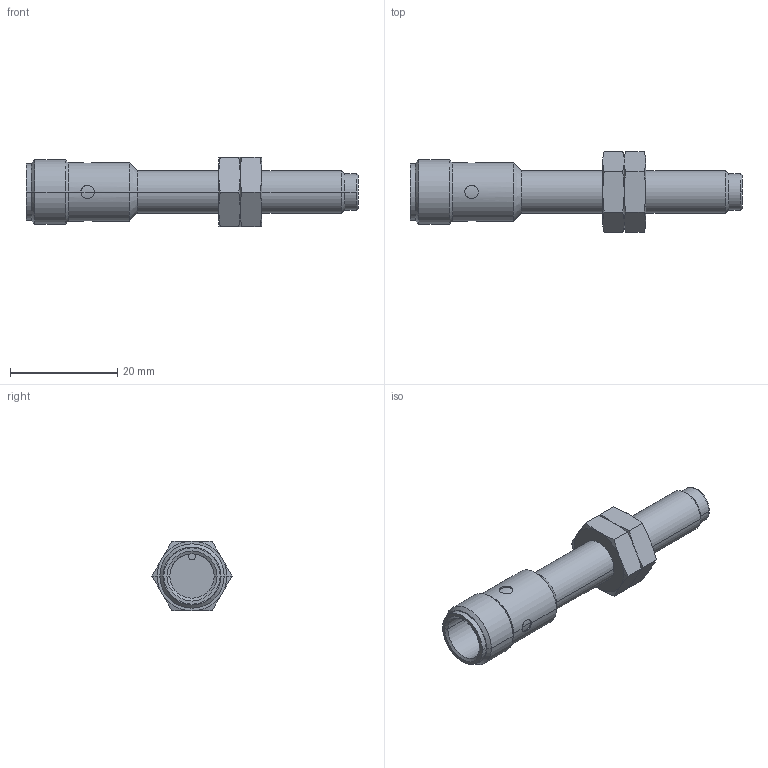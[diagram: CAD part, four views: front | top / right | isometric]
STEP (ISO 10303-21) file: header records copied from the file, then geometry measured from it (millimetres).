
FILE_DESCRIPTION( ( '' ), '1' );
FILE_NAME( '//partserver001.servicenet/client_exchange/iodir/jobs/output/wkb12412912_no0/STEP/ie5288_2_03.stp', '2008-10-07T10:21:49', ( '' ), ( '' ), ' ', ' ', ' ' );
FILE_SCHEMA( ( 'CONFIG_CONTROL_DESIGN' ) );
Length unit declared in the file: millimetre
Products named in the file (3): 1; 2; 3
Bounding box: 62 x 15.01 x 13 mm (x, y, z)
Volume: 4454.9 mm3; surface area: 3098.8 mm2
Topology: 3 solids, 3 shells, 108 faces, 237 edges, 141 vertices
Faces by surface type: cone 50, cylinder 31, plane 25, torus 2
Entity records: 3248 total; most frequent: CARTESIAN_POINT 865, DIRECTION 478, ORIENTED_EDGE 474, EDGE_CURVE 237, AXIS2_PLACEMENT_3D 202, VERTEX_POINT 141, EDGE_LOOP 118, ADVANCED_FACE 108
